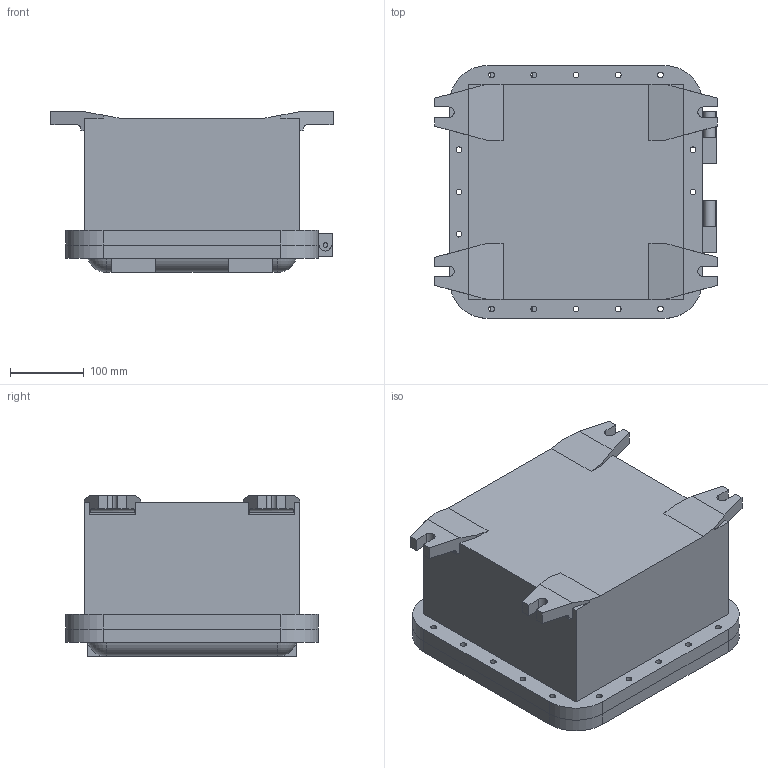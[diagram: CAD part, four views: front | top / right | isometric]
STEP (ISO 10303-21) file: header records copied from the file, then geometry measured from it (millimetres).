
FILE_DESCRIPTION (( 'STEP AP203' ), '1' );
FILE_NAME ('EPL-AEB-10.10.6.STEP', '2016-08-26T13:47:28', ( '' ), ( '' ), 'SwSTEP 2.0', 'SolidWorks 2016', '' );
FILE_SCHEMA (( 'CONFIG_CONTROL_DESIGN' ));
Length unit declared in the file: inch
Products named in the file (5): EP-AEB-10.10.6_Base; EP-AEB-10.10.6-12X.05_Lid; EP-AEB-10.10.6-12X.05_Hinge; .25x1.25_pin; EPL-AEB-10.10.6
Assembly tree (8 placements, depth 2):
  EPL-AEB-10.10.6
    EP-AEB-10.10.6_Base
    EP-AEB-10.10.6-12X.05_Lid
    EP-AEB-10.10.6-12X.05_Hinge  x4
    .25x1.25_pin  x2
Bounding box: 382.96 x 342.9 x 217.66 mm (x, y, z)
Volume: 8101064.6 mm3; surface area: 922451.6 mm2
Topology: 8 solids, 8 shells, 324 faces, 877 edges, 564 vertices
Faces by surface type: cylinder 170, plane 126, cone 16, torus 12
Entity records: 9718 total; most frequent: CARTESIAN_POINT 1672, DIRECTION 1611, ORIENTED_EDGE 1494, EDGE_CURVE 747, AXIS2_PLACEMENT_3D 591, VERTEX_POINT 488, VECTOR 429, LINE 429
